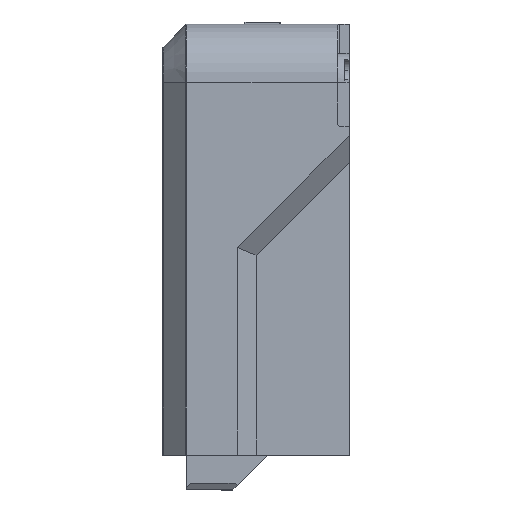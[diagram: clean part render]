
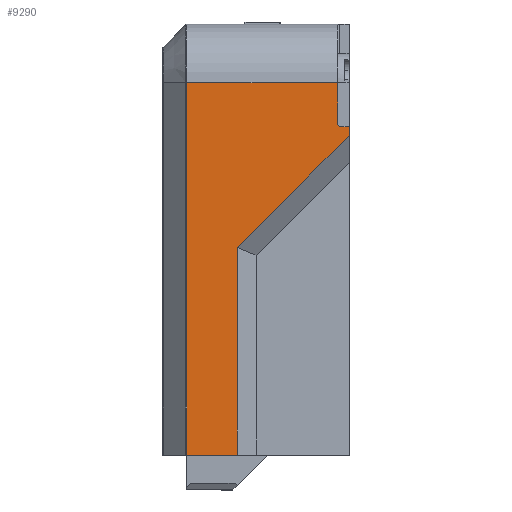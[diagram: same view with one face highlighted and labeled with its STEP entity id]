
A CAD part, left-side view. The second image highlights one B-rep face of the part: STEP entity #9290.
In plain terms, the highlighted planar face has unit normal (-1, 0, 0).
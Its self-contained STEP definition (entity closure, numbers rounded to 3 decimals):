
#534 = LINE ( 'NONE', #6661, #9292 ) ;
#612 = VERTEX_POINT ( 'NONE', #7701 ) ;
#1144 = DIRECTION ( 'NONE',  ( 0., 0., 1. ) ) ;
#1174 = DIRECTION ( 'NONE',  ( 0., 1., 0. ) ) ;
#1299 = AXIS2_PLACEMENT_3D ( 'NONE', #4319, #4378, #7930 ) ;
#1390 = CARTESIAN_POINT ( 'NONE',  ( -181.664, 0., -3.077 ) ) ;
#1535 = EDGE_CURVE ( 'NONE', #2718, #7504, #8369, .T. ) ;
#1808 = DIRECTION ( 'NONE',  ( 0., 0., -1. ) ) ;
#1900 = CARTESIAN_POINT ( 'NONE',  ( -181.664, 23.586, -30.491 ) ) ;
#2033 = FACE_OUTER_BOUND ( 'NONE', #5954, .T. ) ;
#2188 = PLANE ( 'NONE',  #1299 ) ;
#2278 = VERTEX_POINT ( 'NONE', #3233 ) ;
#2298 = VERTEX_POINT ( 'NONE', #4018 ) ;
#2330 = VERTEX_POINT ( 'NONE', #5372 ) ;
#2413 = EDGE_CURVE ( 'NONE', #612, #2278, #2832, .T. ) ;
#2493 = LINE ( 'NONE', #7986, #5514 ) ;
#2652 = EDGE_CURVE ( 'NONE', #2709, #2718, #2493, .T. ) ;
#2668 = VECTOR ( 'NONE', #1174, 1000. ) ;
#2709 = VERTEX_POINT ( 'NONE', #4573 ) ;
#2718 = VERTEX_POINT ( 'NONE', #4100 ) ;
#2820 = ORIENTED_EDGE ( 'NONE', *, *, #8309, .T. ) ;
#2832 = LINE ( 'NONE', #7901, #7777 ) ;
#2906 = CARTESIAN_POINT ( 'NONE',  ( -181.664, 80., -144.027 ) ) ;
#3076 = ORIENTED_EDGE ( 'NONE', *, *, #2413, .T. ) ;
#3224 = LINE ( 'NONE', #6092, #4209 ) ;
#3233 = CARTESIAN_POINT ( 'NONE',  ( -181.664, 69.793, -144.027 ) ) ;
#3305 = CARTESIAN_POINT ( 'NONE',  ( -181.664, 5., 15.923 ) ) ;
#3484 = VERTEX_POINT ( 'NONE', #1390 ) ;
#3590 = CARTESIAN_POINT ( 'NONE',  ( -181.664, 0., -6.905 ) ) ;
#3767 = CARTESIAN_POINT ( 'NONE',  ( -181.664, 80., 15.923 ) ) ;
#4006 = CARTESIAN_POINT ( 'NONE',  ( -181.664, 0., 25.923 ) ) ;
#4018 = CARTESIAN_POINT ( 'NONE',  ( -181.664, 4., -3.077 ) ) ;
#4100 = CARTESIAN_POINT ( 'NONE',  ( -181.664, 48., -54.905 ) ) ;
#4209 = VECTOR ( 'NONE', #1808, 1000. ) ;
#4215 = EDGE_CURVE ( 'NONE', #2298, #2330, #534, .T. ) ;
#4319 = CARTESIAN_POINT ( 'NONE',  ( -181.664, 80., 25.923 ) ) ;
#4378 = DIRECTION ( 'NONE',  ( 1., 0., 0. ) ) ;
#4541 = DIRECTION ( 'NONE',  ( 0., 1., 0. ) ) ;
#4548 = VECTOR ( 'NONE', #4541, 1000. ) ;
#4573 = CARTESIAN_POINT ( 'NONE',  ( -181.664, 48., -144.027 ) ) ;
#4618 = ORIENTED_EDGE ( 'NONE', *, *, #7000, .T. ) ;
#4973 = LINE ( 'NONE', #4006, #6967 ) ;
#4990 = DIRECTION ( 'NONE',  ( 0., 1., 0. ) ) ;
#5132 = DIRECTION ( 'NONE',  ( 0., 0., 1. ) ) ;
#5141 = EDGE_CURVE ( 'NONE', #2709, #2278, #7570, .T. ) ;
#5372 = CARTESIAN_POINT ( 'NONE',  ( -181.664, 5., -2.077 ) ) ;
#5514 = VECTOR ( 'NONE', #5132, 1000. ) ;
#5536 = VECTOR ( 'NONE', #7533, 1000. ) ;
#5660 = VECTOR ( 'NONE', #4990, 1000. ) ;
#5866 = EDGE_CURVE ( 'NONE', #7365, #612, #6328, .T. ) ;
#5954 = EDGE_LOOP ( 'NONE', ( #4618, #2820, #8345, #7557, #6611, #3076, #9119, #8724, #8971 ) ) ;
#6092 = CARTESIAN_POINT ( 'NONE',  ( -181.664, 5., 25.923 ) ) ;
#6328 = LINE ( 'NONE', #3767, #4548 ) ;
#6611 = ORIENTED_EDGE ( 'NONE', *, *, #5866, .T. ) ;
#6661 = CARTESIAN_POINT ( 'NONE',  ( -181.664, 56.5, 49.423 ) ) ;
#6967 = VECTOR ( 'NONE', #1144, 1000. ) ;
#7000 = EDGE_CURVE ( 'NONE', #7504, #3484, #4973, .T. ) ;
#7365 = VERTEX_POINT ( 'NONE', #3305 ) ;
#7391 = DIRECTION ( 'NONE',  ( 0., 0.707, 0.707 ) ) ;
#7504 = VERTEX_POINT ( 'NONE', #3590 ) ;
#7533 = DIRECTION ( 'NONE',  ( 0., -0.707, 0.707 ) ) ;
#7557 = ORIENTED_EDGE ( 'NONE', *, *, #8871, .F. ) ;
#7570 = LINE ( 'NONE', #2906, #5660 ) ;
#7701 = CARTESIAN_POINT ( 'NONE',  ( -181.664, 69.793, 15.923 ) ) ;
#7777 = VECTOR ( 'NONE', #7861, 1000. ) ;
#7861 = DIRECTION ( 'NONE',  ( 0., 0., -1. ) ) ;
#7901 = CARTESIAN_POINT ( 'NONE',  ( -181.664, 69.793, -144.027 ) ) ;
#7930 = DIRECTION ( 'NONE',  ( 0., 0., -1. ) ) ;
#7986 = CARTESIAN_POINT ( 'NONE',  ( -181.664, 48., 25.923 ) ) ;
#8309 = EDGE_CURVE ( 'NONE', #3484, #2298, #8953, .T. ) ;
#8345 = ORIENTED_EDGE ( 'NONE', *, *, #4215, .T. ) ;
#8369 = LINE ( 'NONE', #1900, #5536 ) ;
#8724 = ORIENTED_EDGE ( 'NONE', *, *, #2652, .T. ) ;
#8871 = EDGE_CURVE ( 'NONE', #7365, #2330, #3224, .T. ) ;
#8953 = LINE ( 'NONE', #9096, #2668 ) ;
#8971 = ORIENTED_EDGE ( 'NONE', *, *, #1535, .T. ) ;
#9096 = CARTESIAN_POINT ( 'NONE',  ( -181.664, 80., -3.077 ) ) ;
#9119 = ORIENTED_EDGE ( 'NONE', *, *, #5141, .F. ) ;
#9290 = ADVANCED_FACE ( 'NONE', ( #2033 ), #2188, .F. ) ;
#9292 = VECTOR ( 'NONE', #7391, 1000. ) ;
